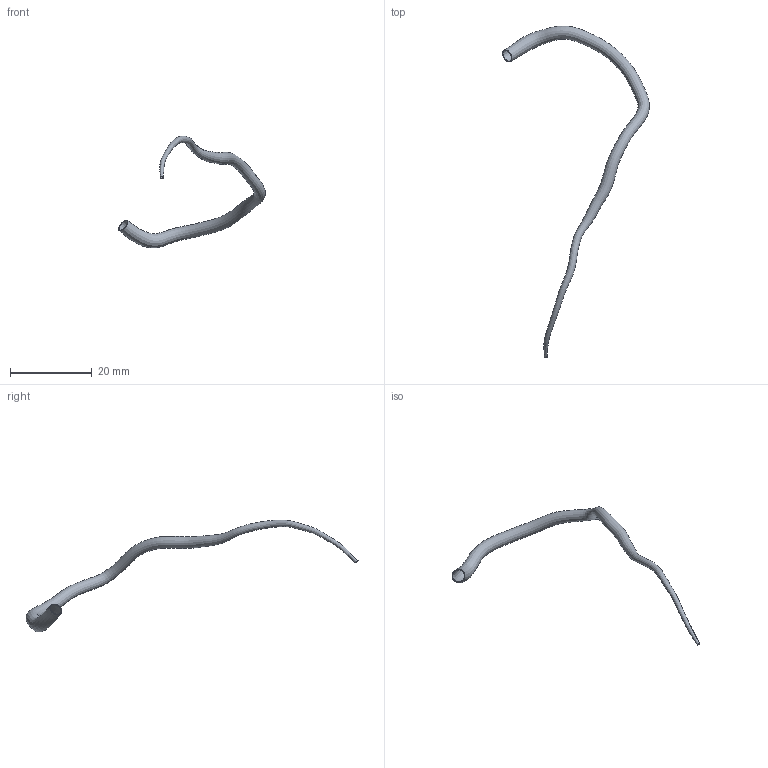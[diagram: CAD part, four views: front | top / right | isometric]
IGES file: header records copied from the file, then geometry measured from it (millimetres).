
Global section: file name: C:\Documents and Settings\Administrator\Desktop\FDA-Pig\Domestic RCA\Pig_000138\rca.seg.ed.igs; native system: Rhinoceros ( May 19 2006 ); preprocessor: Trout Lake IGES 012 May 19 2006; date: 111205.185937; units: centimetre
Bounding box: 35.93 x 81.22 x 27.39 mm (x, y, z)
Surface area: 1790.7 mm2 (no closed solid volume)
Topology: 0 solids, 0 shells, 4 faces, 13 edges, 10 vertices
Faces by surface type: bspline 4
